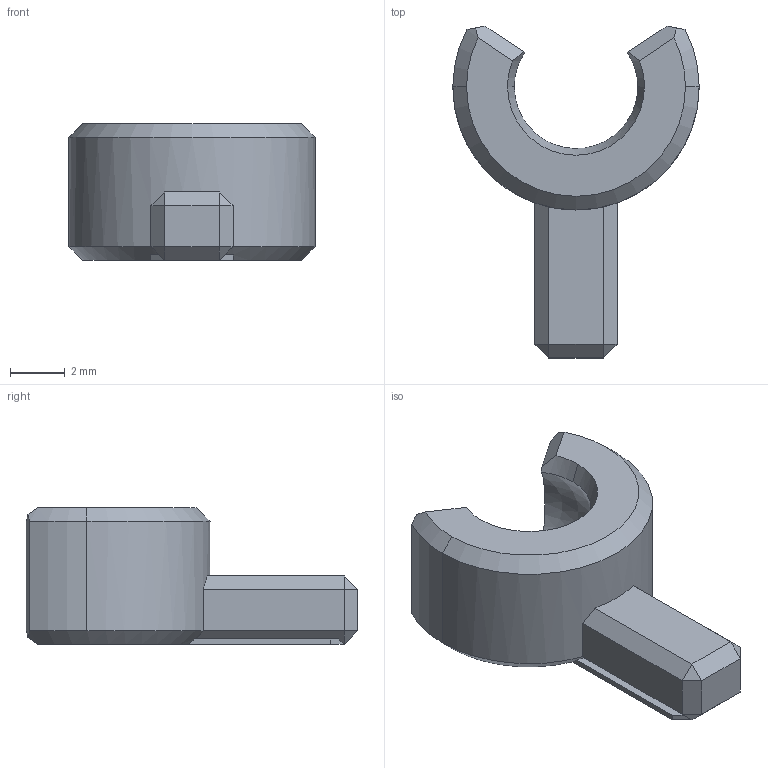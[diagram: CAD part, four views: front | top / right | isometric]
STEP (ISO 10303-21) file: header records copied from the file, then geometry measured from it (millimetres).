
FILE_DESCRIPTION (( 'STEP AP214' ), '1' );
FILE_NAME ('Head Segment.STEP', '2023-12-23T22:22:40', ( '' ), ( '' ), 'SwSTEP 2.0', 'SolidWorks 2023', '' );
FILE_SCHEMA (( 'AUTOMOTIVE_DESIGN' ));
Length unit declared in the file: millimetre
Products named in the file (1): Head Segment
Bounding box: 9 x 12.12 x 5 mm (x, y, z)
Volume: 176.5 mm3; surface area: 278.7 mm2
Topology: 1 solids, 1 shells, 49 faces, 125 edges, 77 vertices
Faces by surface type: plane 32, cone 12, cylinder 3, sphere 2
Entity records: 1472 total; most frequent: CARTESIAN_POINT 301, ORIENTED_EDGE 244, DIRECTION 237, EDGE_CURVE 122, AXIS2_PLACEMENT_3D 83, VERTEX_POINT 75, VECTOR 71, LINE 71
